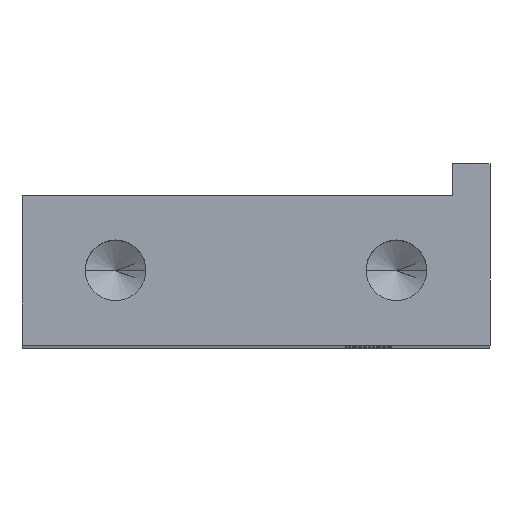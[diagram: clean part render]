
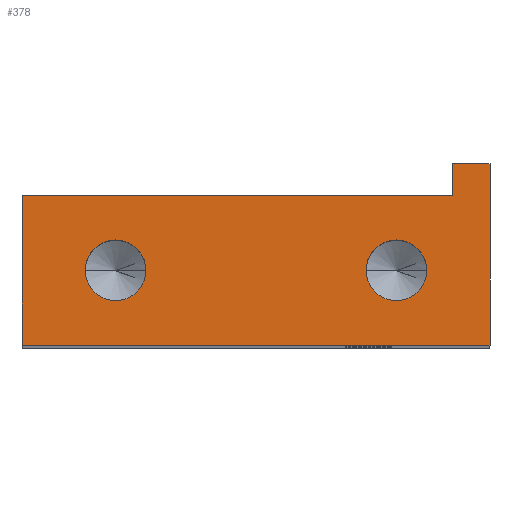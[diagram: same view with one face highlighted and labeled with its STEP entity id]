
A CAD part, top view. The second image highlights one B-rep face of the part: STEP entity #378.
In plain terms, the highlighted planar face has unit normal (0, 0, 1).
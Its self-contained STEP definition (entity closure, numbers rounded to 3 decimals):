
#16 = VECTOR ( 'NONE', #34, 1000. ) ;
#24 = DIRECTION ( 'NONE',  ( 0., 0., -1. ) ) ;
#27 = LINE ( 'NONE', #989, #16 ) ;
#34 = DIRECTION ( 'NONE',  ( 0., -1., 0. ) ) ;
#69 = DIRECTION ( 'NONE',  ( 0., -1., 0. ) ) ;
#90 = VECTOR ( 'NONE', #487, 1000. ) ;
#92 = EDGE_CURVE ( 'NONE', #1042, #962, #678, .T. ) ;
#104 = CARTESIAN_POINT ( 'NONE',  ( -12.5, 8., 48.35 ) ) ;
#112 = CIRCLE ( 'NONE', #677, 1.621 ) ;
#134 = LINE ( 'NONE', #1189, #485 ) ;
#137 = DIRECTION ( 'NONE',  ( 0., 0., 1. ) ) ;
#139 = CARTESIAN_POINT ( 'NONE',  ( -7.5, 4., 48.35 ) ) ;
#148 = EDGE_CURVE ( 'NONE', #346, #405, #539, .T. ) ;
#154 = CIRCLE ( 'NONE', #391, 1.621 ) ;
#193 = CARTESIAN_POINT ( 'NONE',  ( -5.879, 4., 48.35 ) ) ;
#232 = CARTESIAN_POINT ( 'NONE',  ( -7.5, 4., 48.35 ) ) ;
#233 = EDGE_CURVE ( 'NONE', #925, #405, #673, .T. ) ;
#238 = EDGE_CURVE ( 'NONE', #533, #1215, #685, .T. ) ;
#245 = FACE_BOUND ( 'NONE', #898, .T. ) ;
#248 = PLANE ( 'NONE',  #495 ) ;
#250 = FACE_OUTER_BOUND ( 'NONE', #395, .T. ) ;
#255 = CARTESIAN_POINT ( 'NONE',  ( -12.5, 0., 48.35 ) ) ;
#293 = DIRECTION ( 'NONE',  ( 1., 0., 0. ) ) ;
#298 = LINE ( 'NONE', #255, #90 ) ;
#346 = VERTEX_POINT ( 'NONE', #104 ) ;
#349 = EDGE_LOOP ( 'NONE', ( #878, #551 ) ) ;
#370 = CARTESIAN_POINT ( 'NONE',  ( 10.5, 9.7, 48.35 ) ) ;
#377 = CARTESIAN_POINT ( 'NONE',  ( 5.879, 4., 48.35 ) ) ;
#378 = ADVANCED_FACE ( 'NONE', ( #245, #1040, #250 ), #248, .F. ) ;
#384 = ORIENTED_EDGE ( 'NONE', *, *, #92, .F. ) ;
#391 = AXIS2_PLACEMENT_3D ( 'NONE', #711, #507, #689 ) ;
#395 = EDGE_LOOP ( 'NONE', ( #1099, #384, #1117, #725, #602, #432 ) ) ;
#405 = VERTEX_POINT ( 'NONE', #1157 ) ;
#411 = DIRECTION ( 'NONE',  ( 0., -1., 0. ) ) ;
#415 = DIRECTION ( 'NONE',  ( 1., 0., 0. ) ) ;
#421 = CARTESIAN_POINT ( 'NONE',  ( -9.121, 4., 48.35 ) ) ;
#432 = ORIENTED_EDGE ( 'NONE', *, *, #814, .T. ) ;
#451 = AXIS2_PLACEMENT_3D ( 'NONE', #232, #137, #415 ) ;
#453 = CARTESIAN_POINT ( 'NONE',  ( 10.5, 8., 48.35 ) ) ;
#461 = AXIS2_PLACEMENT_3D ( 'NONE', #1041, #836, #616 ) ;
#469 = CARTESIAN_POINT ( 'NONE',  ( -12.5, 0., 48.35 ) ) ;
#473 = CARTESIAN_POINT ( 'NONE',  ( 9.121, 4., 48.35 ) ) ;
#485 = VECTOR ( 'NONE', #564, 1000. ) ;
#487 = DIRECTION ( 'NONE',  ( 1., 0., 0. ) ) ;
#491 = CIRCLE ( 'NONE', #461, 1.621 ) ;
#495 = AXIS2_PLACEMENT_3D ( 'NONE', #1115, #24, #1145 ) ;
#507 = DIRECTION ( 'NONE',  ( 0., 0., 1. ) ) ;
#533 = VERTEX_POINT ( 'NONE', #193 ) ;
#539 = LINE ( 'NONE', #554, #590 ) ;
#551 = ORIENTED_EDGE ( 'NONE', *, *, #1114, .F. ) ;
#554 = CARTESIAN_POINT ( 'NONE',  ( -12.5, 8., 48.35 ) ) ;
#564 = DIRECTION ( 'NONE',  ( -1., 0., 0. ) ) ;
#590 = VECTOR ( 'NONE', #293, 1000. ) ;
#602 = ORIENTED_EDGE ( 'NONE', *, *, #148, .F. ) ;
#616 = DIRECTION ( 'NONE',  ( 1., 0., 0. ) ) ;
#644 = VECTOR ( 'NONE', #69, 1000. ) ;
#662 = CARTESIAN_POINT ( 'NONE',  ( 12.5, 9.7, 48.35 ) ) ;
#671 = VECTOR ( 'NONE', #411, 1000. ) ;
#673 = LINE ( 'NONE', #453, #671 ) ;
#677 = AXIS2_PLACEMENT_3D ( 'NONE', #139, #991, #914 ) ;
#678 = LINE ( 'NONE', #1121, #644 ) ;
#685 = CIRCLE ( 'NONE', #451, 1.621 ) ;
#689 = DIRECTION ( 'NONE',  ( 1., 0., 0. ) ) ;
#701 = EDGE_CURVE ( 'NONE', #1215, #533, #112, .T. ) ;
#711 = CARTESIAN_POINT ( 'NONE',  ( 7.5, 4., 48.35 ) ) ;
#725 = ORIENTED_EDGE ( 'NONE', *, *, #233, .T. ) ;
#746 = ORIENTED_EDGE ( 'NONE', *, *, #701, .F. ) ;
#752 = VERTEX_POINT ( 'NONE', #473 ) ;
#757 = VERTEX_POINT ( 'NONE', #469 ) ;
#770 = ORIENTED_EDGE ( 'NONE', *, *, #238, .F. ) ;
#783 = CARTESIAN_POINT ( 'NONE',  ( 12.5, 0., 48.35 ) ) ;
#814 = EDGE_CURVE ( 'NONE', #346, #757, #27, .T. ) ;
#836 = DIRECTION ( 'NONE',  ( 0., 0., 1. ) ) ;
#878 = ORIENTED_EDGE ( 'NONE', *, *, #1110, .F. ) ;
#898 = EDGE_LOOP ( 'NONE', ( #770, #746 ) ) ;
#914 = DIRECTION ( 'NONE',  ( 1., 0., 0. ) ) ;
#925 = VERTEX_POINT ( 'NONE', #370 ) ;
#951 = VERTEX_POINT ( 'NONE', #377 ) ;
#962 = VERTEX_POINT ( 'NONE', #783 ) ;
#989 = CARTESIAN_POINT ( 'NONE',  ( -12.5, 8., 48.35 ) ) ;
#991 = DIRECTION ( 'NONE',  ( 0., 0., 1. ) ) ;
#1040 = FACE_BOUND ( 'NONE', #349, .T. ) ;
#1041 = CARTESIAN_POINT ( 'NONE',  ( 7.5, 4., 48.35 ) ) ;
#1042 = VERTEX_POINT ( 'NONE', #662 ) ;
#1099 = ORIENTED_EDGE ( 'NONE', *, *, #1184, .T. ) ;
#1110 = EDGE_CURVE ( 'NONE', #752, #951, #154, .T. ) ;
#1114 = EDGE_CURVE ( 'NONE', #951, #752, #491, .T. ) ;
#1115 = CARTESIAN_POINT ( 'NONE',  ( -12.5, 8., 48.35 ) ) ;
#1117 = ORIENTED_EDGE ( 'NONE', *, *, #1126, .T. ) ;
#1121 = CARTESIAN_POINT ( 'NONE',  ( 12.5, 8., 48.35 ) ) ;
#1126 = EDGE_CURVE ( 'NONE', #1042, #925, #134, .T. ) ;
#1145 = DIRECTION ( 'NONE',  ( -1., 0., 0. ) ) ;
#1157 = CARTESIAN_POINT ( 'NONE',  ( 10.5, 8., 48.35 ) ) ;
#1184 = EDGE_CURVE ( 'NONE', #757, #962, #298, .T. ) ;
#1189 = CARTESIAN_POINT ( 'NONE',  ( 12.5, 9.7, 48.35 ) ) ;
#1215 = VERTEX_POINT ( 'NONE', #421 ) ;
